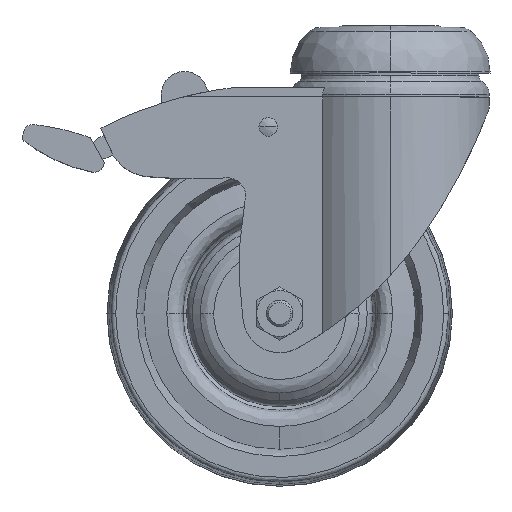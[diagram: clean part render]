
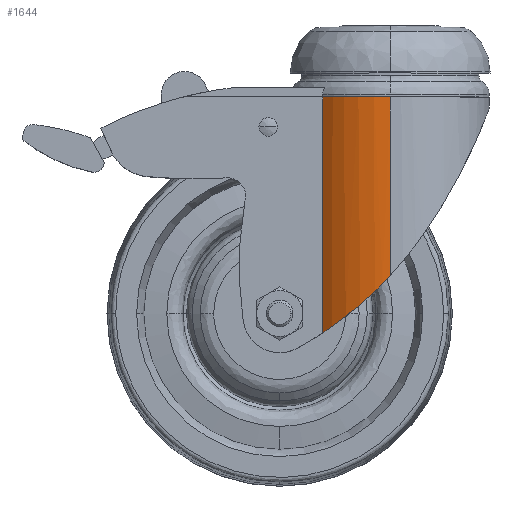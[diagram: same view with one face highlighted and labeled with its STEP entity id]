
A CAD part, top view. The second image highlights one B-rep face of the part: STEP entity #1644.
In plain terms, the highlighted cylindrical face has radius 21.5 mm (diameter 43 mm), a partial arc.
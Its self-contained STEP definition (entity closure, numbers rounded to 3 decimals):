
#227 = CARTESIAN_POINT ( 'NONE',  ( 23.894, -9.468, 20.88 ) ) ;
#304 = CARTESIAN_POINT ( 'NONE',  ( 24.982, -8.475, 21.121 ) ) ;
#411 = DIRECTION ( 'NONE',  ( 0., 0., 1. ) ) ;
#443 = VERTEX_POINT ( 'NONE', #1210 ) ;
#500 = CARTESIAN_POINT ( 'NONE',  ( 16.391, -15.415, 17.309 ) ) ;
#900 = ORIENTED_EDGE ( 'NONE', *, *, #10811, .T. ) ;
#1210 = CARTESIAN_POINT ( 'NONE',  ( 14.509, 34.5, 15.75 ) ) ;
#1508 = FACE_OUTER_BOUND ( 'NONE', #2888, .T. ) ;
#1583 = CARTESIAN_POINT ( 'NONE',  ( 15.116, -16.294, 16.315 ) ) ;
#1644 = ADVANCED_FACE ( 'NONE', ( #1508 ), #14030, .T. ) ;
#1771 = DIRECTION ( 'NONE',  ( 0., 1., 0. ) ) ;
#2236 = CARTESIAN_POINT ( 'NONE',  ( 14.509, -16.695, 15.75 ) ) ;
#2310 = ORIENTED_EDGE ( 'NONE', *, *, #4855, .T. ) ;
#2327 = CARTESIAN_POINT ( 'NONE',  ( 29.144, -4.284, 21.5 ) ) ;
#2515 = B_SPLINE_CURVE_WITH_KNOTS ( 'NONE', 3,
 ( #13027, #5151, #6502, #9693, #9774, #14214, #8597, #14287, #13170, #9107 ),
 .UNSPECIFIED., .F., .F.,
 ( 4, 2, 2, 2, 4 ),
 ( 0.839, 0.879, 0.919, 0.96, 1. ),
 .UNSPECIFIED. ) ;
#2710 = CARTESIAN_POINT ( 'NONE',  ( 21.73, -11.342, 20.213 ) ) ;
#2888 = EDGE_LOOP ( 'NONE', ( #5296, #3006, #10151, #2310, #7453, #900 ) ) ;
#3006 = ORIENTED_EDGE ( 'NONE', *, *, #8484, .T. ) ;
#3118 = DIRECTION ( 'NONE',  ( 0., -1., 0. ) ) ;
#3413 = CARTESIAN_POINT ( 'NONE',  ( 16.391, -15.415, 17.309 ) ) ;
#3446 = VERTEX_POINT ( 'NONE', #2236 ) ;
#3605 = CARTESIAN_POINT ( 'NONE',  ( 29.144, -4.284, 21.5 ) ) ;
#3791 = CARTESIAN_POINT ( 'NONE',  ( 15.745, -15.868, 16.833 ) ) ;
#3881 = VECTOR ( 'NONE', #5433, 1000. ) ;
#4138 = CARTESIAN_POINT ( 'NONE',  ( 29.144, -4.283, 21.5 ) ) ;
#4400 = B_SPLINE_CURVE_WITH_KNOTS ( 'NONE', 3,
 ( #4789, #11547, #9336, #10366, #2710, #227, #304, #4709, #13775, #3605 ),
 .UNSPECIFIED., .F., .F.,
 ( 4, 2, 2, 2, 4 ),
 ( 0., 0.004, 0.009, 0.013, 0.018 ),
 .UNSPECIFIED. ) ;
#4584 = CARTESIAN_POINT ( 'NONE',  ( 29.144, 34.5, 21.5 ) ) ;
#4709 = CARTESIAN_POINT ( 'NONE',  ( 27.1, -6.429, 21.429 ) ) ;
#4789 = CARTESIAN_POINT ( 'NONE',  ( 16.391, -15.415, 17.309 ) ) ;
#4855 = EDGE_CURVE ( 'NONE', #443, #3446, #5264, .T. ) ;
#5151 = CARTESIAN_POINT ( 'NONE',  ( 27.802, 34.5, 21.5 ) ) ;
#5264 = LINE ( 'NONE', #5411, #6322 ) ;
#5296 = ORIENTED_EDGE ( 'NONE', *, *, #13930, .T. ) ;
#5411 = CARTESIAN_POINT ( 'NONE',  ( 14.509, -50., 15.75 ) ) ;
#5433 = DIRECTION ( 'NONE',  ( 0., 1., 0. ) ) ;
#5510 = CARTESIAN_POINT ( 'NONE',  ( 29.144, -50., 21.5 ) ) ;
#5919 = VERTEX_POINT ( 'NONE', #9957 ) ;
#6322 = VECTOR ( 'NONE', #3118, 1000. ) ;
#6502 = CARTESIAN_POINT ( 'NONE',  ( 26.461, 34.5, 21.374 ) ) ;
#6640 = CARTESIAN_POINT ( 'NONE',  ( 29.144, -4.283, 21.5 ) ) ;
#6754 = EDGE_CURVE ( 'NONE', #3446, #9892, #8025, .T. ) ;
#7453 = ORIENTED_EDGE ( 'NONE', *, *, #6754, .T. ) ;
#7584 = EDGE_CURVE ( 'NONE', #14633, #443, #2515, .T. ) ;
#7697 = VERTEX_POINT ( 'NONE', #4138 ) ;
#8025 = B_SPLINE_CURVE_WITH_KNOTS ( 'NONE', 3,
 ( #13066, #1583, #3791, #500 ),
 .UNSPECIFIED., .F., .F.,
 ( 4, 4 ),
 ( 0., 0.003 ),
 .UNSPECIFIED. ) ;
#8187 = B_SPLINE_CURVE_WITH_KNOTS ( 'NONE', 3,
 ( #2327, #13319, #12202, #6640 ),
 .UNSPECIFIED., .F., .F.,
 ( 4, 4 ),
 ( 0., 0. ),
 .UNSPECIFIED. ) ;
#8484 = EDGE_CURVE ( 'NONE', #7697, #14633, #10050, .T. ) ;
#8597 = CARTESIAN_POINT ( 'NONE',  ( 18.831, 34.5, 18.913 ) ) ;
#9107 = CARTESIAN_POINT ( 'NONE',  ( 14.509, 34.5, 15.75 ) ) ;
#9336 = CARTESIAN_POINT ( 'NONE',  ( 18.502, -13.897, 18.72 ) ) ;
#9693 = CARTESIAN_POINT ( 'NONE',  ( 23.825, 34.5, 20.875 ) ) ;
#9774 = CARTESIAN_POINT ( 'NONE',  ( 22.53, 34.5, 20.501 ) ) ;
#9780 = AXIS2_PLACEMENT_3D ( 'NONE', #14093, #1771, #411 ) ;
#9892 = VERTEX_POINT ( 'NONE', #3413 ) ;
#9957 = CARTESIAN_POINT ( 'NONE',  ( 29.144, -4.284, 21.5 ) ) ;
#10050 = LINE ( 'NONE', #5510, #3881 ) ;
#10151 = ORIENTED_EDGE ( 'NONE', *, *, #7584, .T. ) ;
#10366 = CARTESIAN_POINT ( 'NONE',  ( 20.648, -12.227, 19.787 ) ) ;
#10811 = EDGE_CURVE ( 'NONE', #9892, #5919, #4400, .T. ) ;
#11547 = CARTESIAN_POINT ( 'NONE',  ( 17.437, -14.681, 18.08 ) ) ;
#12202 = CARTESIAN_POINT ( 'NONE',  ( 29.144, -4.283, 21.5 ) ) ;
#13027 = CARTESIAN_POINT ( 'NONE',  ( 29.144, 34.5, 21.5 ) ) ;
#13066 = CARTESIAN_POINT ( 'NONE',  ( 14.509, -16.695, 15.75 ) ) ;
#13170 = CARTESIAN_POINT ( 'NONE',  ( 15.491, 34.5, 16.663 ) ) ;
#13319 = CARTESIAN_POINT ( 'NONE',  ( 29.144, -4.284, 21.5 ) ) ;
#13775 = CARTESIAN_POINT ( 'NONE',  ( 28.134, -5.373, 21.5 ) ) ;
#13930 = EDGE_CURVE ( 'NONE', #5919, #7697, #8187, .T. ) ;
#14030 = CYLINDRICAL_SURFACE ( 'NONE', #9780, 21.5 ) ;
#14093 = CARTESIAN_POINT ( 'NONE',  ( 29.144, -50., 0. ) ) ;
#14214 = CARTESIAN_POINT ( 'NONE',  ( 20.033, 34.5, 19.52 ) ) ;
#14287 = CARTESIAN_POINT ( 'NONE',  ( 16.56, 34.5, 17.484 ) ) ;
#14633 = VERTEX_POINT ( 'NONE', #4584 ) ;
